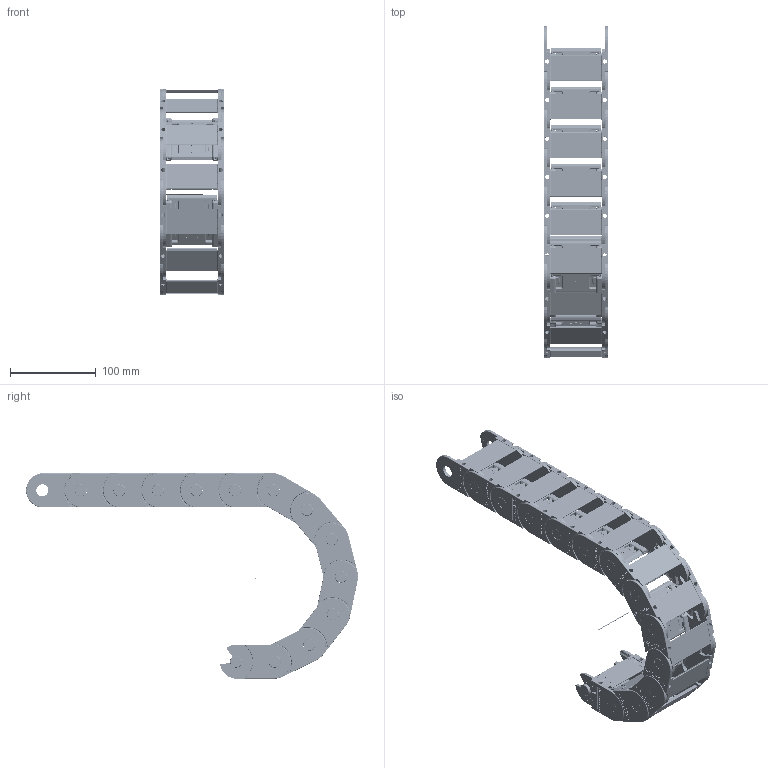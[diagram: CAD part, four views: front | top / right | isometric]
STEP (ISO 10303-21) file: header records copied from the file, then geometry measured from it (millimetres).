
FILE_DESCRIPTION((''),'2;1');
FILE_NAME('C:\Uebbing\PARAMETERKETTEN\KOLIBRI\Kol_40_075_2\Kol_40_075_2_R100.stp','2012-03-05T13:46:20',('Uebbing'),(''),'Autodesk Inventor 10','Autodesk Inventor 10','');
FILE_SCHEMA(('AUTOMOTIVE_DESIGN { 1 0 10303 214 1 1 1 1 }'));
Length unit declared in the file: millimetre
Products named in the file (5): KOLIBRI 40_075_2_PARAMETRISCH; Achse; Kol_40_075_2; Kol_40_075_2_Klappsteg
Assembly tree (16 placements, depth 3):
  KOLIBRI 40_075_2_PARAMETRISCH
    Achse
    Kol_40_075_2  x13
      Kol_40_075_2
      Kol_40_075_2_Klappsteg
Bounding box: 75 x 387.5 x 240 mm (x, y, z)
Volume: 457323.5 mm3; surface area: 312443.4 mm2
Topology: 27 solids, 27 shells, 11053 faces, 29397 edges, 18918 vertices
Faces by surface type: bspline 4615, plane 4214, cylinder 1886, torus 182, sphere 104, cone 52
Full cylindrical faces by diameter (mm): 1 x1, 1.609 x13, 2.825 x13, 3.4 x52, 3.5 x26, 4 x52, 5 x13, 6 x13, 14 x13, 14.1 x13
Entity records: 30534 total; most frequent: CARTESIAN_POINT 10906, ORIENTED_EDGE 4442, DIRECTION 3343, EDGE_CURVE 2221, VERTEX_POINT 1446, VECTOR 1273, LINE 1273, AXIS2_PLACEMENT_3D 1035
